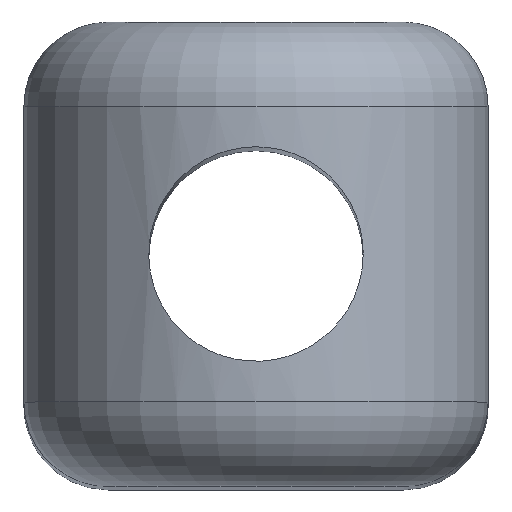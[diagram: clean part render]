
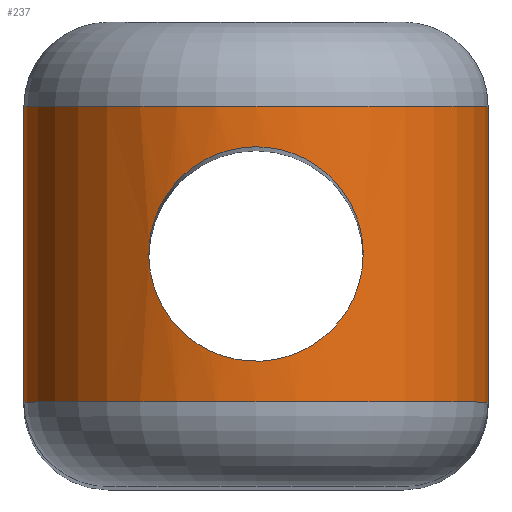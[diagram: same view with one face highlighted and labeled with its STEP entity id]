
A CAD part, top view. The second image highlights one B-rep face of the part: STEP entity #237.
In plain terms, the highlighted cylindrical face has radius 11 mm (diameter 22 mm), a partial arc.
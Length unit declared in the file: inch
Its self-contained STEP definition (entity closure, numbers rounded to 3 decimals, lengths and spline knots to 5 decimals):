
#16=FACE_BOUND('',#59,.T.);
#42=FACE_OUTER_BOUND('',#58,.T.);
#58=EDGE_LOOP('',(#210,#211,#212,#213));
#59=EDGE_LOOP('',(#214));
#60=B_SPLINE_CURVE_WITH_KNOTS('',3,(#361,#362,#363,#364,#365,#366,#367,
#368,#369,#370,#371,#372,#373,#374,#375,#376,#377,#378,#379,#380,#381,#382,
#383,#384,#385,#386,#387,#388,#389,#390,#391,#392,#393,#394),
 .UNSPECIFIED.,.T.,.F.,(4,2,2,2,2,2,2,2,2,2,2,2,2,2,2,2,4),(0.,0.19481,
0.38962,0.58405,0.77849,0.97293,
1.16737,1.36217,1.55698,1.75179,1.9466,
2.14103,2.33547,2.52991,2.72435,2.91915,
3.11396),.UNSPECIFIED.);
#71=LINE('',#427,#88);
#77=LINE('',#450,#94);
#88=VECTOR('',#320,0.55118);
#94=VECTOR('',#350,0.55118);
#98=CIRCLE('',#259,0.43307);
#102=CIRCLE('',#272,0.43307);
#105=VERTEX_POINT('',#359);
#107=VERTEX_POINT('',#397);
#111=VERTEX_POINT('',#406);
#116=VERTEX_POINT('',#426);
#118=VERTEX_POINT('',#432);
#124=EDGE_CURVE('',#105,#105,#60,.T.);
#130=EDGE_CURVE('',#111,#107,#98,.T.);
#140=EDGE_CURVE('',#107,#116,#71,.T.);
#147=EDGE_CURVE('',#116,#118,#102,.T.);
#152=EDGE_CURVE('',#111,#118,#77,.T.);
#210=ORIENTED_EDGE('',*,*,#130,.F.);
#211=ORIENTED_EDGE('',*,*,#152,.T.);
#212=ORIENTED_EDGE('',*,*,#147,.F.);
#213=ORIENTED_EDGE('',*,*,#140,.F.);
#214=ORIENTED_EDGE('',*,*,#124,.T.);
#222=CYLINDRICAL_SURFACE('',#279,0.43307);
#237=ADVANCED_FACE('',(#42,#16),#222,.T.);
#259=AXIS2_PLACEMENT_3D('',#408,#299,#300);
#272=AXIS2_PLACEMENT_3D('',#441,#336,#337);
#279=AXIS2_PLACEMENT_3D('',#452,#353,#354);
#299=DIRECTION('center_axis',(0.,-1.,0.));
#300=DIRECTION('ref_axis',(0.,0.,1.));
#320=DIRECTION('',(0.,1.,0.));
#336=DIRECTION('center_axis',(0.,1.,0.));
#337=DIRECTION('ref_axis',(0.,0.,1.));
#350=DIRECTION('',(0.,1.,0.));
#353=DIRECTION('center_axis',(0.,1.,0.));
#354=DIRECTION('ref_axis',(-1.,0.,0.));
#359=CARTESIAN_POINT('',(0.2,0.,4.28176));
#361=CARTESIAN_POINT('Ctrl Pts',(0.2,0.,
4.28176));
#362=CARTESIAN_POINT('Ctrl Pts',(0.2,-0.02557,
4.28176));
#363=CARTESIAN_POINT('Ctrl Pts',(0.19481,-0.05251,
4.28458));
#364=CARTESIAN_POINT('Ctrl Pts',(0.1743,-0.10163,4.29425));
#365=CARTESIAN_POINT('Ctrl Pts',(0.15898,-0.12386,4.3009));
#366=CARTESIAN_POINT('Ctrl Pts',(0.12389,-0.15895,4.31302));
#367=CARTESIAN_POINT('Ctrl Pts',(0.10166,-0.17429,4.31935));
#368=CARTESIAN_POINT('Ctrl Pts',(0.05248,-0.19482,
4.32824));
#369=CARTESIAN_POINT('Ctrl Pts',(0.02552,-0.2,4.33071));
#370=CARTESIAN_POINT('Ctrl Pts',(-0.02552,-0.2,
4.33071));
#371=CARTESIAN_POINT('Ctrl Pts',(-0.05248,-0.19482,
4.32824));
#372=CARTESIAN_POINT('Ctrl Pts',(-0.10166,-0.17429,
4.31935));
#373=CARTESIAN_POINT('Ctrl Pts',(-0.12389,-0.15895,
4.31302));
#374=CARTESIAN_POINT('Ctrl Pts',(-0.15898,-0.12386,
4.3009));
#375=CARTESIAN_POINT('Ctrl Pts',(-0.1743,-0.10163,
4.29425));
#376=CARTESIAN_POINT('Ctrl Pts',(-0.19481,-0.05251,
4.28458));
#377=CARTESIAN_POINT('Ctrl Pts',(-0.2,-0.02557,
4.28176));
#378=CARTESIAN_POINT('Ctrl Pts',(-0.2,0.02557,
4.28176));
#379=CARTESIAN_POINT('Ctrl Pts',(-0.19481,0.05251,
4.28458));
#380=CARTESIAN_POINT('Ctrl Pts',(-0.1743,0.10163,4.29425));
#381=CARTESIAN_POINT('Ctrl Pts',(-0.15898,0.12386,4.3009));
#382=CARTESIAN_POINT('Ctrl Pts',(-0.12389,0.15895,4.31302));
#383=CARTESIAN_POINT('Ctrl Pts',(-0.10166,0.17429,4.31935));
#384=CARTESIAN_POINT('Ctrl Pts',(-0.05248,0.19482,
4.32824));
#385=CARTESIAN_POINT('Ctrl Pts',(-0.02552,0.2,4.33071));
#386=CARTESIAN_POINT('Ctrl Pts',(0.02552,0.2,4.33071));
#387=CARTESIAN_POINT('Ctrl Pts',(0.05248,0.19482,4.32824));
#388=CARTESIAN_POINT('Ctrl Pts',(0.10166,0.17429,4.31935));
#389=CARTESIAN_POINT('Ctrl Pts',(0.12389,0.15895,4.31302));
#390=CARTESIAN_POINT('Ctrl Pts',(0.15898,0.12386,4.3009));
#391=CARTESIAN_POINT('Ctrl Pts',(0.1743,0.10163,4.29425));
#392=CARTESIAN_POINT('Ctrl Pts',(0.19481,0.05251,4.28458));
#393=CARTESIAN_POINT('Ctrl Pts',(0.2,0.02557,4.28176));
#394=CARTESIAN_POINT('Ctrl Pts',(0.2,0.,
4.28176));
#397=CARTESIAN_POINT('',(-0.43307,-0.27559,3.89764));
#406=CARTESIAN_POINT('',(0.43307,-0.27559,3.89764));
#408=CARTESIAN_POINT('Origin',(0.,-0.27559,
3.89764));
#426=CARTESIAN_POINT('',(-0.43307,0.27559,3.89764));
#427=CARTESIAN_POINT('',(-0.43307,-0.27559,3.89764));
#432=CARTESIAN_POINT('',(0.43307,0.27559,3.89764));
#441=CARTESIAN_POINT('Origin',(0.,0.27559,
3.89764));
#450=CARTESIAN_POINT('',(0.43307,-0.27559,3.89764));
#452=CARTESIAN_POINT('Origin',(0.,0.,3.89764));
